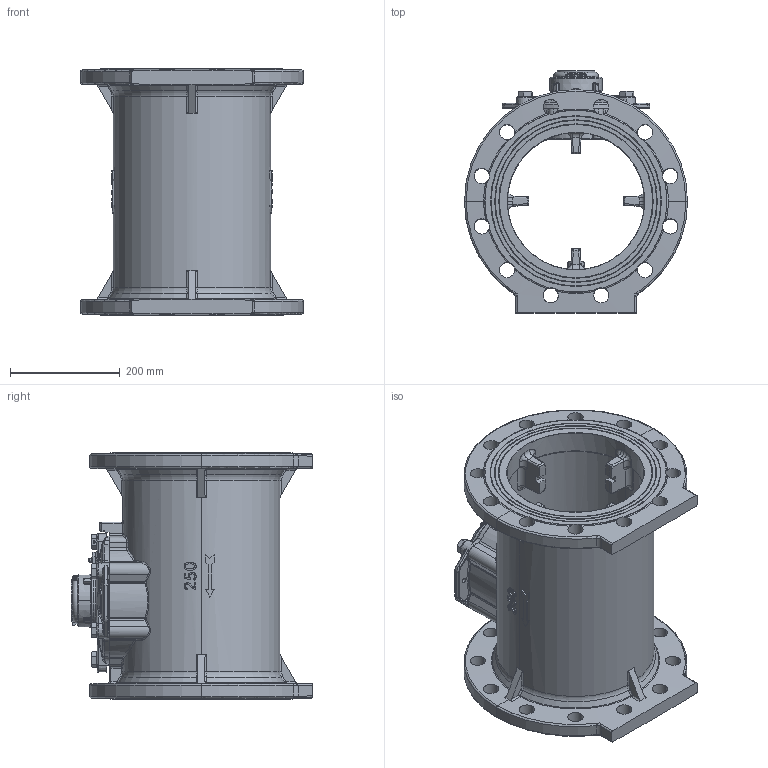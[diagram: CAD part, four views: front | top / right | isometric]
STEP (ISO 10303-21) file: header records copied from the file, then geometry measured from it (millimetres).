
FILE_DESCRIPTION (( 'STEP AP203' ), '1' );
FILE_NAME ('13370009-00,WT-II 10'''' BS m3.STEP', '2011-05-16T06:45:52', ( 'àøã-ãìéä áò"î' ), ( '' ), 'SwSTEP 2.0', 'SolidWorks 2011', '' );
FILE_SCHEMA (( 'CONFIG_CONTROL_DESIGN' ));
Products named in the file (10): 13370009-00,WT-II 10'''' BS m3; 21081910-00,Hex cap screw M16x2x45 DIN 933 drilled-1; Hex cap screws MxL DIN 933(M16x2x45(21081909 -00) )-1; 32270155-09,Body WT 10''''(3 22 701 09 -09); 21082009-21,Regulator cap screw WT-6; 25277209-11,25277210-03,Cover WT 10''''-12''''(25277209 -11); 25824619-00,Plastic cover ARAD lid; p,26710709-07,Lid pin-4; p,27630309-05,Plastic lid ARAD(hor)-1-5; 25824609-01,Plastic cover 87x55;14 TPI GAPS-1
Assembly tree (13 placements, depth 3):
  13370009-00,WT-II 10'''' BS m3
    21081910-00,Hex cap screw M16x2x45 DIN 933 drilled-1
    Hex cap screws MxL DIN 933(M16x2x45(21081909 -00) )-1  x5
    25824619-00,Plastic cover ARAD lid
      p,27630309-05,Plastic lid ARAD(hor)-1-5
      p,26710709-07,Lid pin-4
      25824609-01,Plastic cover 87x55;14 TPI GAPS-1
    32270155-09,Body WT 10''''(3 22 701 09 -09)
    21082009-21,Regulator cap screw WT-6
    25277209-11,25277210-03,Cover WT 10''''-12''''(25277209 -11)
Bounding box: 406 x 440.3 x 449 mm (x, y, z)
Volume: 10515314.6 mm3; surface area: 1396701.7 mm2
Topology: 12 solids, 12 shells, 2231 faces, 5613 edges, 3345 vertices
Faces by surface type: plane 611, bspline 608, cylinder 500, cone 298, torus 196, sphere 18
Entity records: 93512 total; most frequent: CARTESIAN_POINT 46906, ORIENTED_EDGE 10574, DIRECTION 8142, EDGE_CURVE 5287, AXIS2_PLACEMENT_3D 3273, VERTEX_POINT 3216, EDGE_LOOP 2257, ADVANCED_FACE 2123
